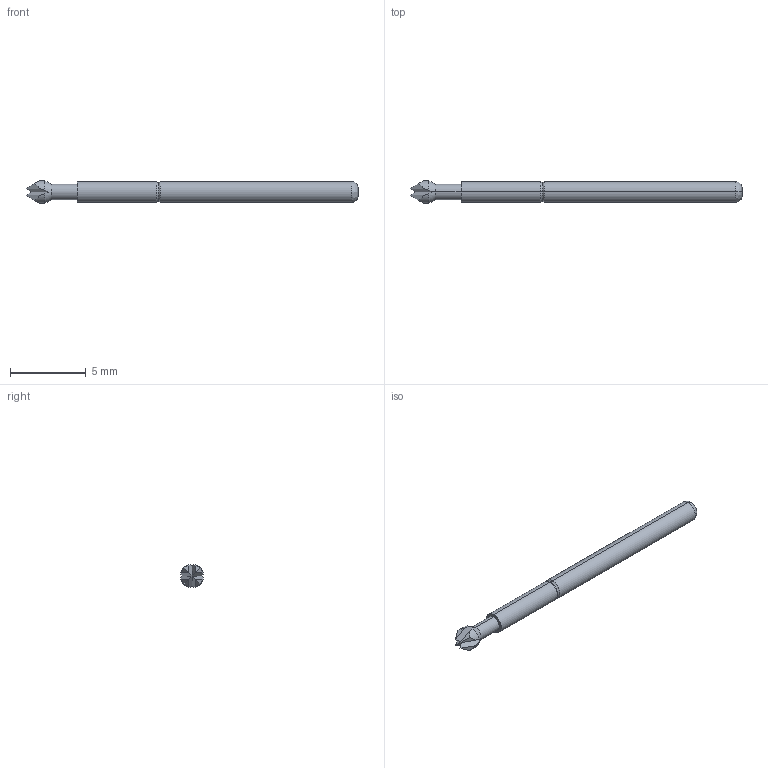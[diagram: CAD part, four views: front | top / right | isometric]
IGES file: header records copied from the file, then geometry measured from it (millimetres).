
Start section: SolidWorks IGES file using analytic representation for surfaces
Global section: file name: Z:\probe solid model mockups\Solidworks models\IGES Files\EPA-2\EPA-2X RECD.IGS; native system: SolidWorks 2006 by SolidWorks Corporation; preprocessor: SolidWorks 2006 by SolidWorks Corporation; author: tsakatani; date: 071220.162545; units: inch
Bounding box: 21.92 x 1.5 x 1.5 mm (x, y, z)
Surface area: 95.9 mm2 (no closed solid volume)
Topology: 0 solids, 0 shells, 36 faces, 214 edges, 214 vertices
Faces by surface type: bspline 24, revolution 12
